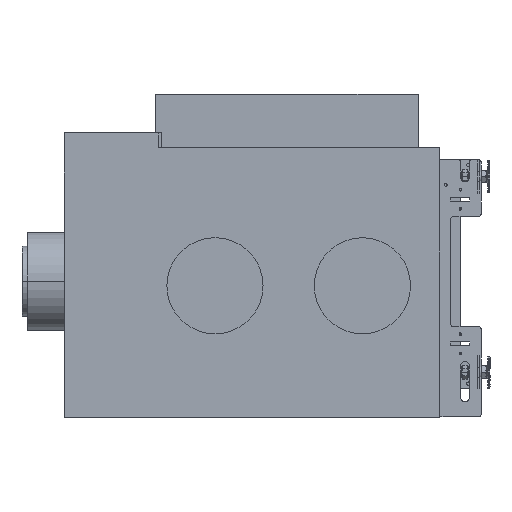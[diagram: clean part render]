
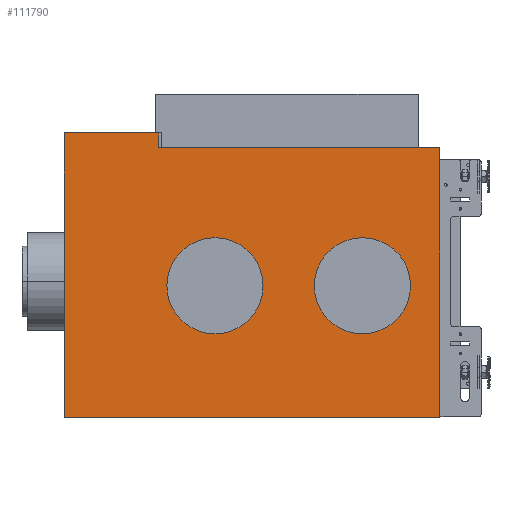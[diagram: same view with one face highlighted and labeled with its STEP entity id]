
A CAD part, left-side view. The second image highlights one B-rep face of the part: STEP entity #111790.
In plain terms, the highlighted planar face has unit normal (-1, 0, 0).
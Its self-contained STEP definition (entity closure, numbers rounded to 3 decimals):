
#54410=CARTESIAN_POINT('',(5536.25,542.,
231.5));
#54420=DIRECTION('',(0.,0.,-1.));
#54430=VECTOR('',#54420,1.);
#54440=LINE('',#54410,#54430);
#54450=CARTESIAN_POINT('',(5536.25,542.,
231.5));
#54460=VERTEX_POINT('',#54450);
#54470=CARTESIAN_POINT('',(5536.25,542.,-212.5));
#54480=VERTEX_POINT('',#54470);
#54490=EDGE_CURVE('',#54460,#54480,#54440,.T.);
#55600=CARTESIAN_POINT('',(5536.25,-44.,
208.5));
#55610=VERTEX_POINT('',#55600);
#55660=CARTESIAN_POINT('',(5536.25,-44.,
208.5));
#55670=DIRECTION('',(0.,1.,0.));
#55680=VECTOR('',#55670,1.);
#55690=LINE('',#55660,#55680);
#55700=CARTESIAN_POINT('',(5536.25,395.,208.5));
#55710=VERTEX_POINT('',#55700);
#55720=EDGE_CURVE('',#55610,#55710,#55690,.T.);
#56810=CARTESIAN_POINT('',(5536.25,-44.,
-212.5));
#56820=VERTEX_POINT('',#56810);
#56850=CARTESIAN_POINT('',(5536.25,-44.,
9.146));
#56860=DIRECTION('',(0.,0.,-1.));
#56870=VECTOR('',#56860,1.);
#56880=LINE('',#56850,#56870);
#56890=EDGE_CURVE('',#55610,#56820,#56880,.T.);
#60190=CARTESIAN_POINT('',(5536.25,307.,
68.108));
#60200=VERTEX_POINT('',#60190);
#60230=CARTESIAN_POINT('',(5536.25,307.,
-6.892));
#60240=DIRECTION('',(-1.,0.,0.));
#60250=DIRECTION('',(0.,0.,1.));
#60260=AXIS2_PLACEMENT_3D('',#60230,#60240,#60250);
#60270=CIRCLE('',#60260,75.);
#60280=CARTESIAN_POINT('',(5536.25,307.,
-81.892));
#60290=VERTEX_POINT('',#60280);
#60300=EDGE_CURVE('',#60290,#60200,#60270,.T.);
#60720=CARTESIAN_POINT('',(5536.25,77.,
68.108));
#60730=VERTEX_POINT('',#60720);
#60760=CARTESIAN_POINT('',(5536.25,77.,
-6.892));
#60770=DIRECTION('',(-1.,0.,0.));
#60780=DIRECTION('',(0.,0.,1.));
#60790=AXIS2_PLACEMENT_3D('',#60760,#60770,#60780);
#60800=CIRCLE('',#60790,75.);
#60810=CARTESIAN_POINT('',(5536.25,77.,
-81.892));
#60820=VERTEX_POINT('',#60810);
#60830=EDGE_CURVE('',#60820,#60730,#60800,.T.);
#108050=EDGE_CURVE('',#60200,#60290,#60270,.T.);
#109760=EDGE_CURVE('',#60730,#60820,#60800,.T.);
#110000=CARTESIAN_POINT('',(5536.25,395.,231.5));
#110010=DIRECTION('',(0.,0.,-1.));
#110020=VECTOR('',#110010,1.);
#110030=LINE('',#110000,#110020);
#110040=CARTESIAN_POINT('',(5536.25,395.,231.5));
#110050=VERTEX_POINT('',#110040);
#110060=EDGE_CURVE('',#110050,#55710,#110030,.T.);
#110680=CARTESIAN_POINT('',(5536.25,542.,
231.5));
#110690=DIRECTION('',(0.,-1.,0.));
#110700=VECTOR('',#110690,1.);
#110710=LINE('',#110680,#110700);
#110720=EDGE_CURVE('',#54460,#110050,#110710,.T.);
#111020=CARTESIAN_POINT('',(5536.25,542.,-212.5));
#111030=DIRECTION('',(0.,-1.,0.));
#111040=VECTOR('',#111030,1.);
#111050=LINE('',#111020,#111040);
#111060=EDGE_CURVE('',#54480,#56820,#111050,.T.);
#111580=CARTESIAN_POINT('',(5536.25,542.,
231.5));
#111590=DIRECTION('',(1.,0.,0.));
#111600=DIRECTION('',(0.,0.,1.));
#111610=AXIS2_PLACEMENT_3D('',#111580,#111590,#111600);
#111620=PLANE('',#111610);
#111630=ORIENTED_EDGE('',*,*,#109760,.F.);
#111640=ORIENTED_EDGE('',*,*,#60830,.F.);
#111650=EDGE_LOOP('',(#111640,#111630));
#111660=FACE_BOUND('',#111650,.T.);
#111670=ORIENTED_EDGE('',*,*,#108050,.F.);
#111680=ORIENTED_EDGE('',*,*,#60300,.F.);
#111690=EDGE_LOOP('',(#111680,#111670));
#111700=FACE_BOUND('',#111690,.T.);
#111710=ORIENTED_EDGE('',*,*,#54490,.T.);
#111720=ORIENTED_EDGE('',*,*,#110720,.F.);
#111730=ORIENTED_EDGE('',*,*,#110060,.F.);
#111740=ORIENTED_EDGE('',*,*,#55720,.T.);
#111750=ORIENTED_EDGE('',*,*,#56890,.F.);
#111760=ORIENTED_EDGE('',*,*,#111060,.T.);
#111770=EDGE_LOOP('',(#111760,#111750,#111740,#111730,#111720,#111710));
#111780=FACE_OUTER_BOUND('',#111770,.T.);
#111790=ADVANCED_FACE('',(#111660,#111700,#111780),#111620,.F.);
